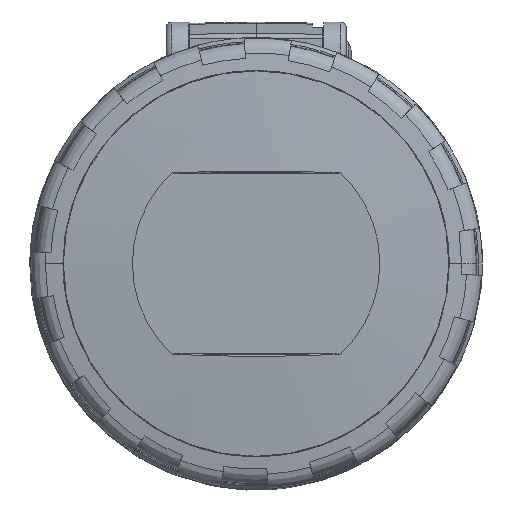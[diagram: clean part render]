
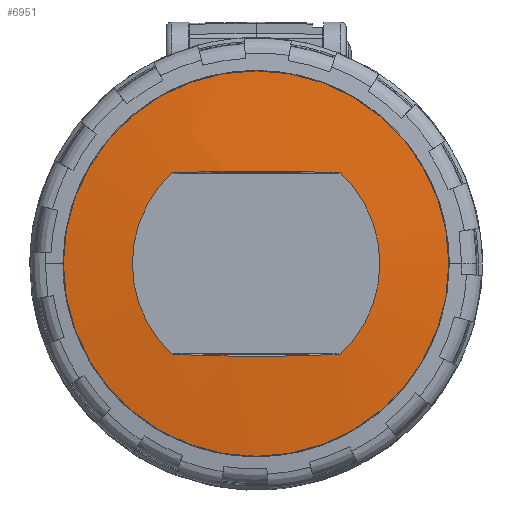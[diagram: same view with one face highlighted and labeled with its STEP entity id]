
A CAD part, top view. The second image highlights one B-rep face of the part: STEP entity #6951.
In plain terms, the highlighted spherical face has radius 291.997 mm.
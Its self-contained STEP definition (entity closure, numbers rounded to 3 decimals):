
#34=SPHERICAL_SURFACE('',#15349,291.997);
#6951=ADVANCED_FACE('',(#7499,#7500),#34,.T.);
#7499=FACE_BOUND('',#7676,.T.);
#7500=FACE_BOUND('',#7677,.T.);
#7676=EDGE_LOOP('',(#8564));
#7677=EDGE_LOOP('',(#8565,#8566,#8567,#8568));
#8564=ORIENTED_EDGE('',*,*,#12986,.T.);
#8565=ORIENTED_EDGE('',*,*,#12979,.F.);
#8566=ORIENTED_EDGE('',*,*,#12984,.F.);
#8567=ORIENTED_EDGE('',*,*,#12987,.F.);
#8568=ORIENTED_EDGE('',*,*,#12980,.F.);
#11430=VERTEX_POINT('',#36586);
#11432=VERTEX_POINT('',#36620);
#11433=VERTEX_POINT('',#36624);
#11436=VERTEX_POINT('',#36699);
#11437=VERTEX_POINT('',#36705);
#12979=EDGE_CURVE('',#11432,#11430,#14724,.T.);
#12980=EDGE_CURVE('',#11430,#11433,#14725,.T.);
#12984=EDGE_CURVE('',#11436,#11432,#14726,.T.);
#12986=EDGE_CURVE('',#11437,#11437,#14727,.T.);
#12987=EDGE_CURVE('',#11433,#11436,#14728,.T.);
#14724=CIRCLE('',#15341,233.91);
#14725=CIRCLE('',#15343,22.001);
#14726=CIRCLE('',#15344,22.001);
#14727=CIRCLE('',#15347,34.266);
#14728=CIRCLE('',#15348,233.909);
#15341=AXIS2_PLACEMENT_3D('',#36621,#16693,#16694);
#15343=AXIS2_PLACEMENT_3D('',#36623,#16697,#16698);
#15344=AXIS2_PLACEMENT_3D('',#36700,#16700,#16701);
#15347=AXIS2_PLACEMENT_3D('',#36704,#16707,#16708);
#15348=AXIS2_PLACEMENT_3D('',#36706,#16709,#16710);
#15349=AXIS2_PLACEMENT_3D('',#36707,#16711,#16712);
#16693=DIRECTION('',(0.,0.766,0.643));
#16694=DIRECTION('',(0.,-0.643,0.766));
#16697=DIRECTION('',(0.,0.,1.));
#16698=DIRECTION('',(0.,1.,0.));
#16700=DIRECTION('',(0.,0.,1.));
#16701=DIRECTION('',(0.,1.,0.));
#16707=DIRECTION('',(0.,0.,1.));
#16708=DIRECTION('',(0.,1.,0.));
#16709=DIRECTION('',(0.,-0.766,0.643));
#16710=DIRECTION('',(0.,-0.643,-0.766));
#16711=DIRECTION('',(1.,0.,0.));
#16712=DIRECTION('',(0.,1.,0.));
#36586=CARTESIAN_POINT('',(14.933,-16.157,14.57));
#36620=CARTESIAN_POINT('',(-14.933,-16.157,14.57));
#36621=CARTESIAN_POINT('',(0.,133.891,-164.25));
#36623=CARTESIAN_POINT('',(0.,0.,14.57));
#36624=CARTESIAN_POINT('',(14.933,16.157,14.57));
#36699=CARTESIAN_POINT('',(-14.933,16.157,14.57));
#36700=CARTESIAN_POINT('',(0.,0.,14.57));
#36704=CARTESIAN_POINT('',(0.,0.,13.383));
#36705=CARTESIAN_POINT('',(0.,34.266,13.383));
#36706=CARTESIAN_POINT('',(0.,-133.89,-164.249));
#36707=CARTESIAN_POINT('',(0.,0.,-276.597));
